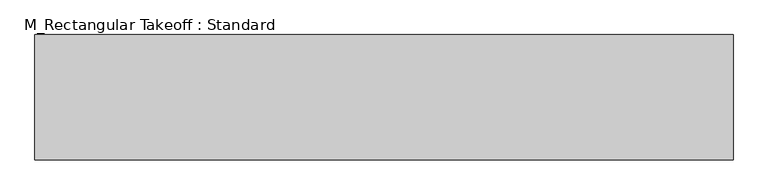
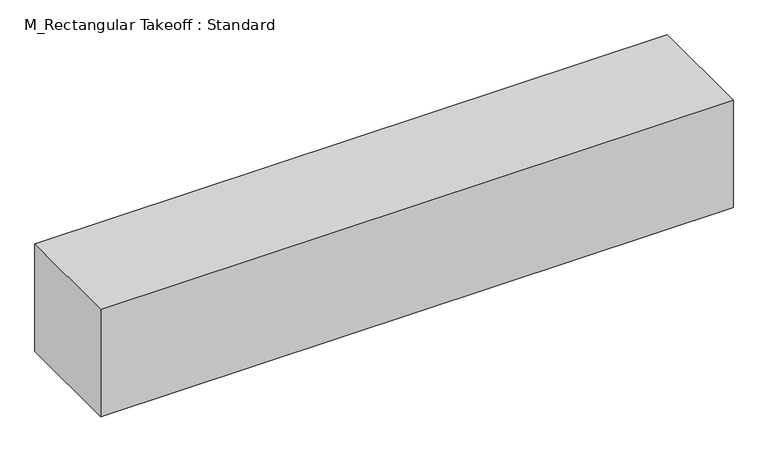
"""IFC4 building model written with IfcOpenShell, lengths in millimetres: duct fitting geometry, M_Rectangular Takeoff : Standard."""

from ifc_helpers import new_model, si_unit, frame, origin, place, context, project, spatial, polyline, outline, extrude, source, transform, mapped, element, save


def m_rectangular_takeoff_standard_1be9fc67(model_context):
    return source(origin(), model_context, "Body", "SweptSolid", [
        extrude(outline(polyline([(-787.5647406, 150.0), (881.4687406, 150.0), (881.4687406, -150.0), (-787.5647406, -150.0), (-787.5647406, 150.0)])), frame((0.0, 0.0, -150.0), z_axis=(0.0, 0.0, 1.0), x_axis=(1.0, 0.0, 0.0)), (0.0, 0.0, 1.0), 300.0),
        extrude(outline(polyline([(-787.5647406, 150.0), (881.4687406, 150.0), (881.4687406, -150.0), (-787.5647406, -150.0), (-787.5647406, 150.0)])), frame((0.0, 0.0, -150.0), z_axis=(0.0, 0.0, 1.0), x_axis=(1.0, 0.0, 0.0)), (0.0, 0.0, 1.0), 300.0),
        extrude(outline(polyline([(-787.5647406, 150.0), (881.4687406, 150.0), (881.4687406, -150.0), (-787.5647406, -150.0), (-787.5647406, 150.0)])), frame((0.0, 0.0, -150.0), z_axis=(0.0, 0.0, 1.0), x_axis=(1.0, 0.0, 0.0)), (0.0, 0.0, 1.0), 300.0),
    ])


if __name__ == "__main__":
    model = new_model("IFC4")
    model_context = context("Model", 3, world=origin())
    ifc_project = project(units=[si_unit("LENGTHUNIT", "METRE", prefix="MILLI")], contexts=[model_context])
    site = spatial("IfcSite", under=ifc_project)
    building = spatial("IfcBuilding", under=site)
    placement = place(None, origin())
    m_rectangular_takeoff_standard_shape = m_rectangular_takeoff_standard_1be9fc67(model_context)
    element("IfcDuctFitting", 1, ObjectType="M_Rectangular Takeoff : Standard", at=placement, inside=building, context=model_context, shape_type="MappedRepresentation", body=[
        mapped(m_rectangular_takeoff_standard_shape, transform((0.0, 0.0, 0.0), x_axis=(1.0, 0.0, 0.0), y_axis=(0.0, 1.0, 0.0), z_axis=(0.0, 0.0, 1.0))),
    ])
    save(model, "model.ifc")
